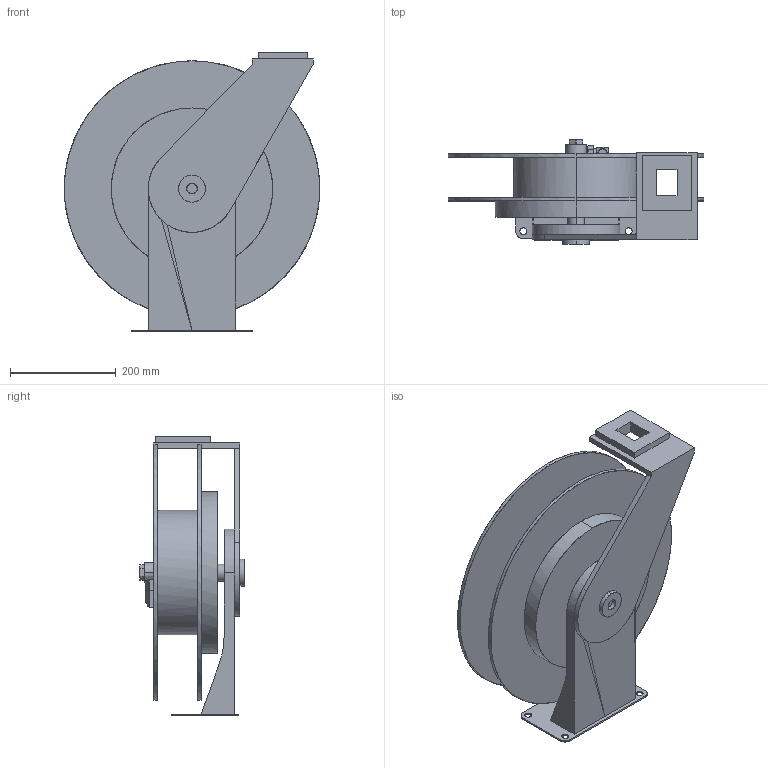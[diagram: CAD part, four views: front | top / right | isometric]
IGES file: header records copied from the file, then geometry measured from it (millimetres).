
Start section: Comment
Global section: file name: TH7000 TW.igs; native system:  By UGS Corp.; preprocessor: XPlus GENERIC/IGES 3.0; author: Author; organization: Title; date: 20120614.075446; units: millimetre
Bounding box: 481.98 x 197.43 x 527.84 mm (x, y, z)
Surface area: 1175759.5 mm2 (no closed solid volume)
Topology: 0 solids, 0 shells, 217 faces, 1064 edges, 1064 vertices
Faces by surface type: bspline 217
